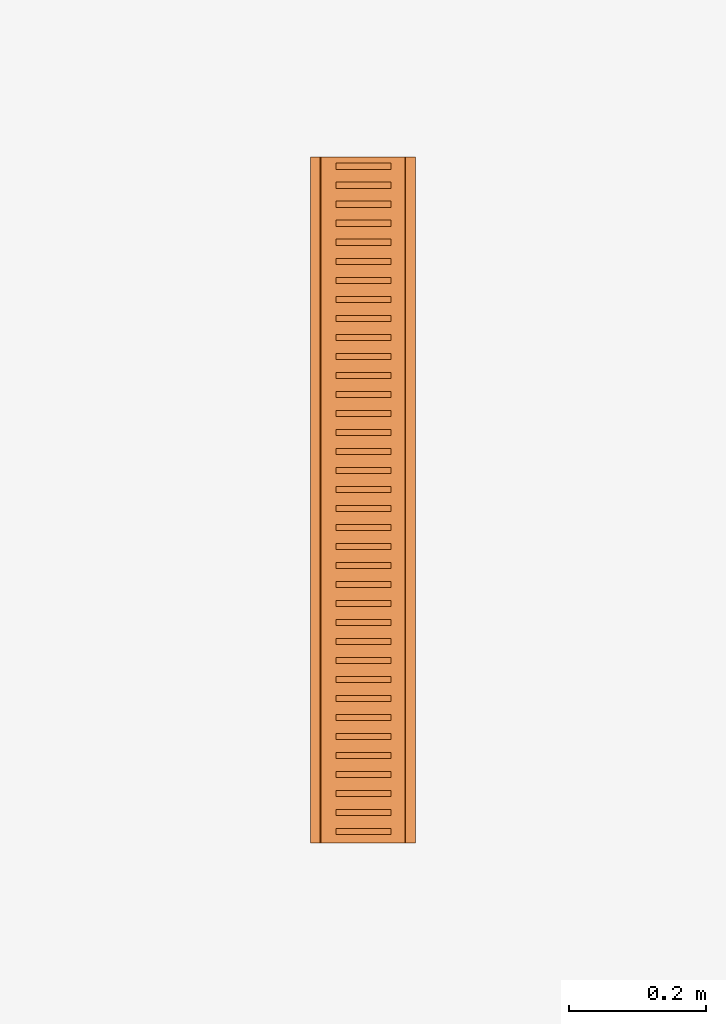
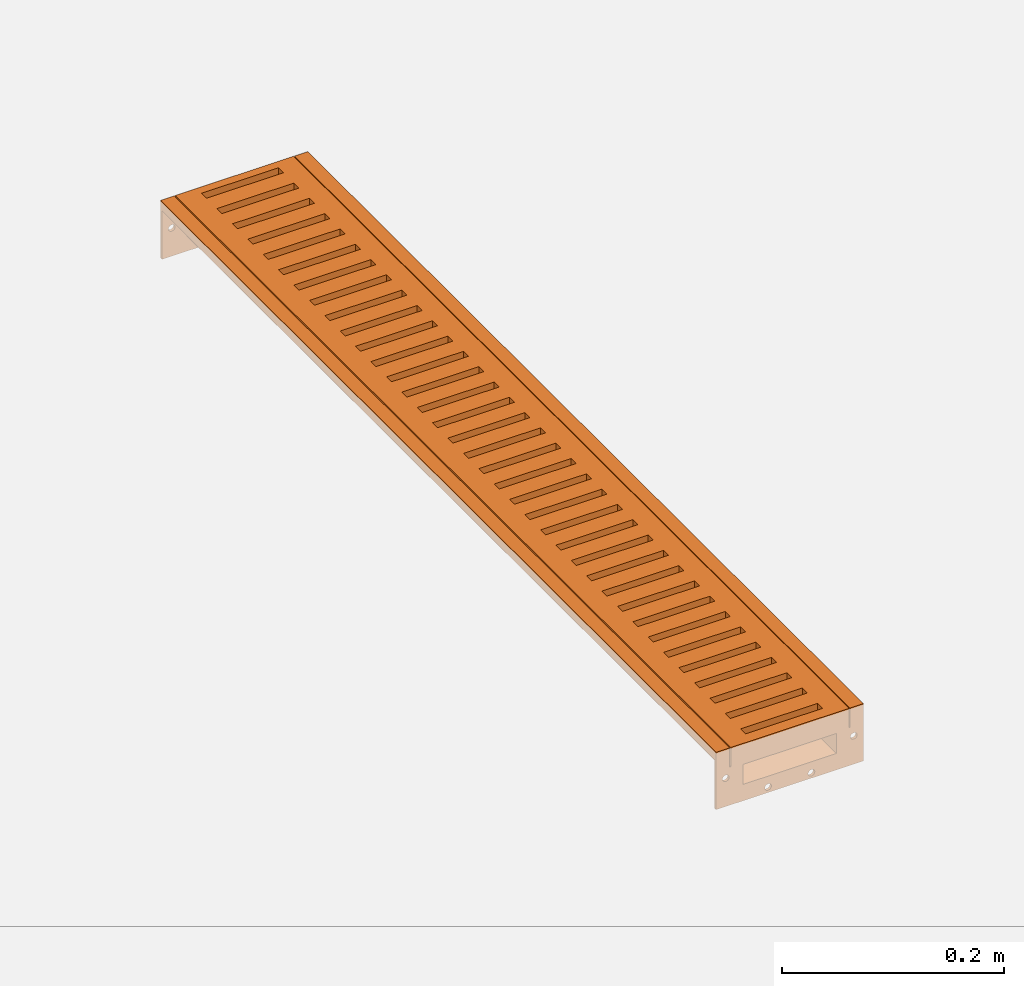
# One storey, part 2 of 2: 1 proxy.
"""IFC2X3 building model written with IfcOpenShell, lengths in millimetres."""

import ifcopenshell
import ifcopenshell.guid

model = None  # the IFC model being written
_history = None  # IfcOwnerHistory: only IFC2X3 demands one
_inside = {}  # id of a spatial element -> (the spatial element, [elements in it])
_under = {}  # id of a project, library or spatial element -> (it, [spatial elements below it])
_declared = {}  # id of a project -> (the project, [libraries it declares])
_typed = {}  # id of a type object -> (the type object, [elements of that type])
_made_of = {}  # id of a material, layer set ... -> (it, [elements and type objects made of it])


def new_model(schema):
    """Start an empty IFC model of exactly this schema.

    Asked for "IFC4X3", IfcOpenShell would pick the latest addendum, in which some entities
    have other attributes; the version numbers below select the first issue.
    IFC2X3 requires an IfcOwnerHistory on every rooted entity: one is made here for all.
    """
    global model, _history
    if schema == "IFC4X3":
        model = ifcopenshell.file(schema_version=(4, 3, 0, 0))
    else:
        model = ifcopenshell.file(schema=schema)
    _inside.clear()
    _under.clear()
    _declared.clear()
    _typed.clear()
    _made_of.clear()
    _history = None
    if model.schema == "IFC2X3":
        org = make("IfcOrganization", Name="unknown")
        user = make(
            "IfcPersonAndOrganization",
            ThePerson=make("IfcPerson", FamilyName="unknown"),
            TheOrganization=org,
        )
        app = make(
            "IfcApplication",
            ApplicationDeveloper=org,
            Version="unknown",
            ApplicationFullName="unknown",
            ApplicationIdentifier="unknown",
        )
        _history = make(
            "IfcOwnerHistory",
            OwningUser=user,
            OwningApplication=app,
            ChangeAction="ADDED",
            CreationDate=0,
        )
    return model


def make(cls, **values):
    """One entity of the class cls with the attributes given. An attribute that is None is left unset."""
    return model.create_entity(
        cls, **{name: value for name, value in values.items() if value is not None}
    )


def entity(cls, *values):
    """Any entity or typed value of the class cls, its attributes in the order of the schema. None: left unset."""
    e = model.create_entity(cls)
    for i, value in enumerate(values):
        if value is not None:
            e[i] = value
    return e


def rooted(cls, **values):
    """An entity with a GlobalId (a new one), such as an element, a storey or a relation."""
    return make(cls, GlobalId=ifcopenshell.guid.new(), OwnerHistory=_history, **values)


def si_unit(unit_type, name, prefix=None):
    """IfcSIUnit, for example si_unit("LENGTHUNIT", "METRE", prefix="MILLI")."""
    return make("IfcSIUnit", UnitType=unit_type, Prefix=prefix, Name=name)


def converted_unit(unit_type, name, factor, base, dimensions=None, offset=None):
    """IfcConversionBasedUnit, such as the inch: factor (a typed value) times the base unit."""
    return make(
        "IfcConversionBasedUnit"
        if offset is None
        else "IfcConversionBasedUnitWithOffset",
        ConversionOffset=offset,
        Dimensions=None
        if dimensions is None
        else entity("IfcDimensionalExponents", *dimensions),
        UnitType=unit_type,
        Name=name,
        ConversionFactor=make(
            "IfcMeasureWithUnit", ValueComponent=factor, UnitComponent=base
        ),
    )


def assignment(units):
    """IfcUnitAssignment: the units of a project."""
    return None if units is None else make("IfcUnitAssignment", Units=units)


def point(xyz):
    """IfcCartesianPoint."""
    return None if xyz is None else make("IfcCartesianPoint", Coordinates=xyz)


def direction(xyz):
    """IfcDirection."""
    return None if xyz is None else make("IfcDirection", DirectionRatios=xyz)


def frame(location, z_axis=None, x_axis=None):
    """IfcAxis2Placement3D, a coordinate frame: its origin and axes. An axis left out is left unset."""
    return make(
        "IfcAxis2Placement3D",
        Location=point(location),
        Axis=direction(z_axis),
        RefDirection=direction(x_axis),
    )


def frame_2d(location, x_axis=None):
    """IfcAxis2Placement2D, a coordinate frame in the plane: its origin and x axis."""
    return make(
        "IfcAxis2Placement2D", Location=point(location), RefDirection=direction(x_axis)
    )


def origin():
    """The frame at (0, 0, 0) with its axes left unset."""
    return frame((0.0, 0.0, 0.0))


def place(relative_to, where):
    """IfcLocalPlacement: puts the frame where relative to a parent placement (None: the world)."""
    return make(
        "IfcLocalPlacement", PlacementRelTo=relative_to, RelativePlacement=where
    )


def context(
    kind, dimensions, precision=None, world=None, true_north=None, identifier=None
):
    """IfcGeometricRepresentationContext, for example the 3D "Model" context."""
    return make(
        "IfcGeometricRepresentationContext",
        ContextIdentifier=identifier,
        ContextType=kind,
        CoordinateSpaceDimension=dimensions,
        Precision=precision,
        WorldCoordinateSystem=world,
        TrueNorth=true_north,
    )


def subcontext(parent, identifier, kind, view, scale=None):
    """IfcGeometricRepresentationSubContext, for example "Body" below "Model"."""
    return make(
        "IfcGeometricRepresentationSubContext",
        ContextIdentifier=identifier,
        ContextType=kind,
        ParentContext=parent,
        TargetScale=scale,
        TargetView=view,
    )


def project(units=None, contexts=None):
    """IfcProject with its units and contexts."""
    return rooted(
        "IfcProject",
        Name="project",
        RepresentationContexts=contexts,
        UnitsInContext=assignment(units),
    )


def spatial(cls, under=None, at=None, **own):
    """A site, building, storey or space (cls), placed at a placement, below another one or the project."""
    s = rooted(cls, ObjectPlacement=at, **own)
    if under is not None:
        _under.setdefault(under.id(), (under, []))[1].append(s)
    return s


def polyline(points):
    """IfcPolyline through the points."""
    return make("IfcPolyline", Points=[point(p) for p in points])


def circle_curve(where, radius):
    """IfcCircle in the frame where."""
    return make("IfcCircle", Position=where, Radius=radius)


def parameter(value):
    """IfcParameterValue: where a trimmed curve begins or ends, as a parameter of its basis curve."""
    return model.create_entity("IfcParameterValue", value)


def trimmed(basis, trim1, trim2, sense, master):
    """IfcTrimmedCurve: the piece of a basis curve between two trims."""
    return make(
        "IfcTrimmedCurve",
        BasisCurve=basis,
        Trim1=trim1,
        Trim2=trim2,
        SenseAgreement=sense,
        MasterRepresentation=master,
    )


def segment(curve, same_sense, transition):
    """IfcCompositeCurveSegment."""
    return make(
        "IfcCompositeCurveSegment",
        Transition=transition,
        SameSense=same_sense,
        ParentCurve=curve,
    )


def composite_curve(segments, self_intersect=None):
    """IfcCompositeCurve: segments joined end to end."""
    return make("IfcCompositeCurve", Segments=segments, SelfIntersect=self_intersect)


def outline(outer, holes=None, kind="AREA"):
    """IfcArbitraryClosedProfileDef: a profile drawn as a closed curve; with holes, ...WithVoids."""
    if holes is None:
        return make("IfcArbitraryClosedProfileDef", ProfileType=kind, OuterCurve=outer)
    return make(
        "IfcArbitraryProfileDefWithVoids",
        ProfileType=kind,
        OuterCurve=outer,
        InnerCurves=holes,
    )


def extrude(swept, where, along, depth):
    """IfcExtrudedAreaSolid: the profile swept, set in the frame where, extruded along a direction by depth."""
    return make(
        "IfcExtrudedAreaSolid",
        SweptArea=swept,
        Position=where,
        ExtrudedDirection=direction(along),
        Depth=depth,
    )


def shape(context_of_items, identifier, shape_type, items):
    """IfcShapeRepresentation: the items that make up one representation, for example the "Body"."""
    return make(
        "IfcShapeRepresentation",
        ContextOfItems=context_of_items,
        RepresentationIdentifier=identifier,
        RepresentationType=shape_type,
        Items=items,
    )


def source(mapping_origin, context_of_items, identifier, shape_type, items):
    """IfcRepresentationMap: a shape defined once, which mapped items show again and again."""
    return make(
        "IfcRepresentationMap",
        MappingOrigin=mapping_origin,
        MappedRepresentation=shape(context_of_items, identifier, shape_type, items),
    )


def transform(
    local_origin,
    x_axis=None,
    y_axis=None,
    z_axis=None,
    scale=None,
    scale2=None,
    scale3=None,
    uniform=True,
):
    """IfcCartesianTransformationOperator3D, or its non-uniform kind. x_axis, y_axis, z_axis: its Axis1, 2, 3."""
    if uniform:
        return make(
            "IfcCartesianTransformationOperator3D",
            Axis1=direction(x_axis),
            Axis2=direction(y_axis),
            LocalOrigin=point(local_origin),
            Scale=scale,
            Axis3=direction(z_axis),
        )
    return make(
        "IfcCartesianTransformationOperator3DnonUniform",
        Axis1=direction(x_axis),
        Axis2=direction(y_axis),
        LocalOrigin=point(local_origin),
        Scale=scale,
        Axis3=direction(z_axis),
        Scale2=scale2,
        Scale3=scale3,
    )


def mapped(mapping_source, mapping_target):
    """IfcMappedItem: shows the shape of a source again, moved by a transform."""
    return make(
        "IfcMappedItem", MappingSource=mapping_source, MappingTarget=mapping_target
    )


def material(Name=None, Category=None):
    """IfcMaterial."""
    return make("IfcMaterial", Name=Name, Category=Category)


def made_of(thing, what):
    """Note that an element or type object is made of a material, layer set ...; save() writes the relation."""
    if what is not None:
        _made_of.setdefault(what.id(), (what, []))[1].append(thing)
    return thing


def element(
    cls,
    number,
    at=None,
    inside=None,
    cuts=None,
    type_object=None,
    material=None,
    context=None,
    identifier="Body",
    shape_type=None,
    held_by="IfcProductDefinitionShape",
    body=None,
    shapes=None,
    **own,
):
    """One element of the class cls, such as IfcWall. Its Tag is "e" and its number.

    at: its placement. inside: the storey or other place that contains it. cuts: it is an
    opening in that element (IfcRelVoidsElement). A single representation is given by context,
    identifier, shape_type and body (its items); several are given by shapes. held_by: the class
    of the entity that holds the representations. save() writes the other relations.
    """
    e = rooted(cls, Tag="e%d" % number, ObjectPlacement=at, **own)
    if body is not None:
        shapes = [shape(context, identifier, shape_type, body)]
    if shapes is not None:
        e.Representation = make(held_by, Representations=shapes)
    if inside is not None:
        _inside.setdefault(inside.id(), (inside, []))[1].append(e)
    if cuts is not None:
        rooted(
            "IfcRelVoidsElement", RelatingBuildingElement=cuts, RelatedOpeningElement=e
        )
    if type_object is not None:
        _typed.setdefault(type_object.id(), (type_object, []))[1].append(e)
    return made_of(e, material)


def aggregate(whole, parts):
    """IfcRelAggregates: a whole, such as a stair, and the parts it consists of."""
    return rooted("IfcRelAggregates", RelatingObject=whole, RelatedObjects=parts)


def save(model, path):
    """Write the relations noted so far, then the file.

    IfcRelAggregates (storeys below a building ...), IfcRelContainedInSpatialStructure (elements
    in a storey), IfcRelDefinesByType, IfcRelAssociatesMaterial and IfcRelDeclares: one each for
    every whole, place, type object, material and project.
    """
    for whole, parts in _under.values():
        aggregate(whole, parts)
    for where, things in _inside.values():
        rooted(
            "IfcRelContainedInSpatialStructure",
            RelatedElements=things,
            RelatingStructure=where,
        )
    for kind, things in _typed.values():
        rooted("IfcRelDefinesByType", RelatedObjects=things, RelatingType=kind)
    for what, things in _made_of.values():
        rooted("IfcRelAssociatesMaterial", RelatedObjects=things, RelatingMaterial=what)
    for by, libraries in _declared.values():
        rooted("IfcRelDeclares", RelatingContext=by, RelatedDefinitions=libraries)
    model.write(path)


model = new_model("IFC2X3")

# Units and contexts
model_context = context("Model", 3, precision=1e-06, world=origin(), true_north=direction((2.0, 6.12303176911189e-17, 1.0)))
context_of_model = context(None, 3, precision=1e-06, world=origin(), true_north=direction((2.0, 6.12303176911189e-17, 1.0)))
body_context = subcontext(model_context, "Body", "Model", "MODEL_VIEW")
ifc_project = project(units=[si_unit("LENGTHUNIT", "METRE", prefix="MILLI"), si_unit("AREAUNIT", "SQUARE_METRE", prefix="MILLI"), si_unit("VOLUMEUNIT", "CUBIC_METRE", prefix="MILLI"), converted_unit("PLANEANGLEUNIT", "DEGREE", entity("IfcRatioMeasure", 0.0174532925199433), si_unit("PLANEANGLEUNIT", "RADIAN"), dimensions=[0, 0, 0, 0, 0, 0, 0]), si_unit("TIMEUNIT", "SECOND")], contexts=[model_context, context_of_model])

# Site, building, storey
site_placement = place(None, origin())
site = spatial("IfcSite", under=ifc_project, at=site_placement, Name="Default", CompositionType="ELEMENT")
building_placement = place(site_placement, origin())
building = spatial("IfcBuilding", under=site, at=building_placement, CompositionType="ELEMENT")
storey_placement = place(building_placement, origin())
storey = spatial("IfcBuildingStorey", under=building, at=storey_placement, Name="Level 1", CompositionType="ELEMENT", Elevation=0.0)

# Proxy
ifc_material = material(Name="Steel, Galvanized")
shared_shape = source(origin(), body_context, "Body", "SweptSolid", [
    extrude(outline(polyline([(-500.0, -61.4999999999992), (500.0, -61.4999999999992), (500.0, 61.4999999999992), (-500.0, 61.4999999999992), (-500.0, -61.4999999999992)]), holes=[polyline([(-479.049999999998, 39.1969999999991), (-479.049999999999, -40.8030000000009), (-488.049999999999, -40.8030000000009), (-488.049999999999, 39.1969999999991), (-479.049999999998, 39.1969999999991)]), polyline([(-451.329999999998, 39.196999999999), (-451.329999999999, -40.803000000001), (-460.329999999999, -40.803000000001), (-460.329999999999, 39.196999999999), (-451.329999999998, 39.196999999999)]), polyline([(-432.609999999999, -40.803000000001), (-432.609999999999, 39.196999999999), (-423.609999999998, 39.196999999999), (-423.609999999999, -40.803000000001), (-432.609999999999, -40.803000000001)]), polyline([(-395.889999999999, -40.8030000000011), (-404.889999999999, -40.803000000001), (-404.889999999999, 39.1969999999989), (-395.889999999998, 39.1969999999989), (-395.889999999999, -40.8030000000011)]), polyline([(-377.169999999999, -40.8030000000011), (-377.169999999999, 39.1969999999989), (-368.169999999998, 39.1969999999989), (-368.169999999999, -40.8030000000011), (-377.169999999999, -40.8030000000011)]), polyline([(-349.449999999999, -40.8030000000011), (-349.449999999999, 39.1969999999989), (-340.449999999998, 39.1969999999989), (-340.449999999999, -40.8030000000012), (-349.449999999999, -40.8030000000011)]), polyline([(-321.729999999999, -40.8030000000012), (-321.729999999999, 39.1969999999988), (-312.729999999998, 39.1969999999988), (-312.729999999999, -40.8030000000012), (-321.729999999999, -40.8030000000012)]), polyline([(-294.009999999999, -40.8030000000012), (-294.009999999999, 39.1969999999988), (-285.009999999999, 39.1969999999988), (-285.009999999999, -40.8030000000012), (-294.009999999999, -40.8030000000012)]), polyline([(-266.289999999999, -40.8030000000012), (-266.289999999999, 39.1969999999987), (-257.289999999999, 39.1969999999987), (-257.289999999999, -40.8030000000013), (-266.289999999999, -40.8030000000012)]), polyline([(-238.569999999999, -40.8030000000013), (-238.569999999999, 39.1969999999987), (-229.569999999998, 39.1969999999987), (-229.569999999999, -40.8030000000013), (-238.569999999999, -40.8030000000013)]), polyline([(-210.849999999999, -40.8030000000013), (-210.849999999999, 39.1969999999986), (-201.849999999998, 39.1969999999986), (-201.849999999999, -40.8030000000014), (-210.849999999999, -40.8030000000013)]), polyline([(-183.129999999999, -40.8030000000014), (-183.129999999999, 39.1969999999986), (-174.129999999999, 39.1969999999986), (-174.129999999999, -40.8030000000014), (-183.129999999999, -40.8030000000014)]), polyline([(-155.409999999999, -40.8030000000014), (-155.409999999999, 39.1969999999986), (-146.409999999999, 39.1969999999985), (-146.409999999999, -40.8030000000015), (-155.409999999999, -40.8030000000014)]), polyline([(-127.689999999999, -40.8030000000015), (-127.689999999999, 39.1969999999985), (-118.689999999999, 39.1969999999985), (-118.689999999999, -40.8030000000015), (-127.689999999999, -40.8030000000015)]), polyline([(-99.9699999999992, -40.8030000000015), (-99.9699999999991, 39.1969999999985), (-90.9699999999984, 39.1969999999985), (-90.9699999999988, -40.8030000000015), (-99.9699999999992, -40.8030000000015)]), polyline([(-72.2499999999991, -40.8030000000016), (-72.2499999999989, 39.1969999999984), (-63.2499999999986, 39.1969999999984), (-63.249999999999, -40.8030000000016), (-72.2499999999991, -40.8030000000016)]), polyline([(-44.5299999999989, -40.8030000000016), (-44.5299999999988, 39.1969999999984), (-35.5299999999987, 39.1969999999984), (-35.5299999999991, -40.8030000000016), (-44.5299999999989, -40.8030000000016)]), polyline([(-16.8099999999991, -40.8030000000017), (-16.8099999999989, 39.1969999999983), (-7.80999999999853, 39.1969999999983), (-7.80999999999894, -40.8030000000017), (-16.8099999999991, -40.8030000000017)]), polyline([(10.9100000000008, -40.8030000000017), (10.9100000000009, 39.1969999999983), (19.9100000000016, 39.1969999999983), (19.9100000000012, -40.8030000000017), (10.9100000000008, -40.8030000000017)]), polyline([(38.6300000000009, -40.8030000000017), (38.6300000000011, 39.1969999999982), (47.6300000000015, 39.1969999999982), (47.6300000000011, -40.8030000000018), (38.6300000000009, -40.8030000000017)]), polyline([(66.3500000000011, -40.8030000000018), (66.3500000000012, 39.1969999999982), (75.3500000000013, 39.1969999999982), (75.3500000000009, -40.8030000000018), (66.3500000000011, -40.8030000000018)]), polyline([(94.070000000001, -40.8030000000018), (94.0700000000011, 39.1969999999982), (103.070000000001, 39.1969999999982), (103.070000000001, -40.8030000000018), (94.070000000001, -40.8030000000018)]), polyline([(130.790000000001, -40.8030000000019), (121.790000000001, -40.8030000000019), (121.790000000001, 39.1969999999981), (130.790000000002, 39.1969999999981), (130.790000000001, -40.8030000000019)]), polyline([(149.510000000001, -40.8030000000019), (149.510000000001, 39.1969999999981), (158.510000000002, 39.1969999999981), (158.510000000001, -40.8030000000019), (149.510000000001, -40.8030000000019)]), polyline([(177.230000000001, -40.803000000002), (177.230000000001, 39.196999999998), (186.230000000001, 39.196999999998), (186.230000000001, -40.803000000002), (177.230000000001, -40.803000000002)]), polyline([(204.950000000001, -40.803000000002), (204.950000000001, 39.196999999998), (213.950000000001, 39.196999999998), (213.950000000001, -40.803000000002), (204.950000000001, -40.803000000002)]), polyline([(232.670000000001, -40.803000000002), (232.670000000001, 39.196999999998), (241.670000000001, 39.1969999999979), (241.670000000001, -40.8030000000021), (232.670000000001, -40.803000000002)]), polyline([(260.390000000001, -40.8030000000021), (260.390000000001, 39.1969999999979), (269.390000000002, 39.1969999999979), (269.390000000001, -40.8030000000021), (260.390000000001, -40.8030000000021)]), polyline([(288.110000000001, -40.8030000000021), (288.110000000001, 39.1969999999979), (297.110000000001, 39.1969999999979), (297.110000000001, -40.8030000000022), (288.110000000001, -40.8030000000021)]), polyline([(315.830000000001, -40.8030000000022), (315.830000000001, 39.1969999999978), (324.830000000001, 39.1969999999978), (324.830000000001, -40.8030000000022), (315.830000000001, -40.8030000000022)]), polyline([(343.550000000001, -40.8030000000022), (343.550000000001, 39.1969999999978), (352.550000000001, 39.1969999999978), (352.550000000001, -40.8030000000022), (343.550000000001, -40.8030000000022)]), polyline([(371.270000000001, -40.8030000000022), (371.270000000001, 39.1969999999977), (380.270000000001, 39.1969999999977), (380.270000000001, -40.8030000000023), (371.270000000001, -40.8030000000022)]), polyline([(398.990000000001, -40.8030000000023), (398.990000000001, 39.1969999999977), (407.990000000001, 39.1969999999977), (407.990000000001, -40.8030000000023), (398.990000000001, -40.8030000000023)]), polyline([(426.710000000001, -40.8030000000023), (426.710000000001, 39.1969999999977), (435.710000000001, 39.1969999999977), (435.710000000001, -40.8030000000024), (426.710000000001, -40.8030000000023)]), polyline([(454.430000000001, -40.8030000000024), (454.430000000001, 39.1969999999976), (463.430000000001, 39.1969999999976), (463.430000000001, -40.8030000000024), (454.430000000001, -40.8030000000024)]), polyline([(482.150000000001, -40.8030000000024), (482.150000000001, 39.1969999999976), (491.150000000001, 39.1969999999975), (491.150000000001, -40.8030000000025), (482.150000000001, -40.8030000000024)])]), frame((-0.803000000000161, 500.0, -23.0), z_axis=(0.0, 0.0, 1.0), x_axis=(0.0, 1.0, 0.0)), (0.0, 0.0, 1.0), 23.0),
    extrude(outline(polyline([(-76.479369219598, -27.9230769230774), (-62.5037510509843, -27.9230769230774), (-62.5037510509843, -6.92307692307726), (-48.5037510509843, -6.92307692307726), (-48.5037510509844, 17.076923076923), (48.4962489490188, 17.076923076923), (48.4962489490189, -6.92307692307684), (62.4962489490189, -6.92307692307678), (62.496248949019, -27.923076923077), (76.4962489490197, -27.923076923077), (76.4962489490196, 35.0769230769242), (-0.00375105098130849, 35.0769230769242), (-76.4793692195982, 35.0769230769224), (-76.479369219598, -27.9230769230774)]), holes=[composite_curve([segment(trimmed(circle_curve(frame_2d((66.4962489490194, 4.07692307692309), x_axis=(-1.0, 0.0)), 3.5), [parameter(180.000000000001)], [parameter(7.12444248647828e-13)], True, "PARAMETER"), False, "CONTINUOUS"), segment(trimmed(circle_curve(frame_2d((66.4962489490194, 4.07692307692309), x_axis=(-1.0, 0.0)), 3.5), [parameter(7.12444248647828e-13)], [parameter(180.0)], True, "PARAMETER"), False, "CONTINUOUS")], self_intersect=False), composite_curve([segment(trimmed(circle_curve(frame_2d((22.496248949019, 29.0769230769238), x_axis=(-1.0, 0.0)), 3.5), [parameter(180.0)], [parameter(7.12444248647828e-13)], True, "PARAMETER"), False, "CONTINUOUS"), segment(trimmed(circle_curve(frame_2d((22.496248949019, 29.0769230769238), x_axis=(-1.0, 0.0)), 3.5), [parameter(7.12444248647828e-13)], [parameter(180.0)], True, "PARAMETER"), False, "CONTINUOUS")], self_intersect=False), composite_curve([segment(trimmed(circle_curve(frame_2d((-22.5037510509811, 29.0769230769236), x_axis=(-1.0, 0.0)), 3.5), [parameter(4.07110999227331e-13)], [parameter(180.0)], True, "PARAMETER"), False, "CONTINUOUS"), segment(trimmed(circle_curve(frame_2d((-22.5037510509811, 29.0769230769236), x_axis=(-1.0, 0.0)), 3.5), [parameter(180.0)], [parameter(0.0)], True, "PARAMETER"), False, "CONTINUOUS")], self_intersect=False), composite_curve([segment(trimmed(circle_curve(frame_2d((-66.5037510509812, 4.07692307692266), x_axis=(-1.0, 0.0)), 3.5), [parameter(3.56222124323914e-13)], [parameter(180.0)], True, "PARAMETER"), False, "CONTINUOUS"), segment(trimmed(circle_curve(frame_2d((-66.5037510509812, 4.07692307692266), x_axis=(-1.0, 0.0)), 3.5), [parameter(180.0)], [parameter(0.0)], True, "PARAMETER"), False, "CONTINUOUS")], self_intersect=False)]), frame((-1.05616774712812, 996.955287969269, -27.9230769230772), z_axis=(0.0, 1.0, 0.0), x_axis=(1.0, 0.0, 0.0)), (0.0, 0.0, 1.0), 2.95528796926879),
    extrude(outline(polyline([(-76.4999298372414, -27.9230769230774), (-62.5000127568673, -27.9230769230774), (-62.5000127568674, -6.92307692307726), (-48.5000127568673, -6.92307692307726), (-48.5000127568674, 17.076923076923), (48.4999872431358, 17.076923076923), (48.4999872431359, -6.92307692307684), (62.4999872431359, -6.92307692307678), (62.499987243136, -27.923076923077), (76.4999872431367, -27.923076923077), (76.4999872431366, 35.0769230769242), (-1.27568643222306e-05, 35.0769230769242), (-76.4999298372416, 35.0769230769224), (-76.4999298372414, -27.9230769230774)]), holes=[composite_curve([segment(trimmed(circle_curve(frame_2d((66.4999872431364, 4.07692307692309), x_axis=(-1.0, 0.0)), 3.5), [parameter(180.000000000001)], [parameter(7.12444248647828e-13)], True, "PARAMETER"), False, "CONTINUOUS"), segment(trimmed(circle_curve(frame_2d((66.4999872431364, 4.07692307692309), x_axis=(-1.0, 0.0)), 3.5), [parameter(7.12444248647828e-13)], [parameter(180.0)], True, "PARAMETER"), False, "CONTINUOUS")], self_intersect=False), composite_curve([segment(trimmed(circle_curve(frame_2d((22.4999872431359, 29.0769230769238), x_axis=(-1.0, 0.0)), 3.5), [parameter(180.0)], [parameter(7.12444248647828e-13)], True, "PARAMETER"), False, "CONTINUOUS"), segment(trimmed(circle_curve(frame_2d((22.4999872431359, 29.0769230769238), x_axis=(-1.0, 0.0)), 3.5), [parameter(7.12444248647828e-13)], [parameter(180.0)], True, "PARAMETER"), False, "CONTINUOUS")], self_intersect=False), composite_curve([segment(trimmed(circle_curve(frame_2d((-22.5000127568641, 29.0769230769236), x_axis=(-1.0, 0.0)), 3.5), [parameter(4.07110999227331e-13)], [parameter(180.0)], True, "PARAMETER"), False, "CONTINUOUS"), segment(trimmed(circle_curve(frame_2d((-22.5000127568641, 29.0769230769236), x_axis=(-1.0, 0.0)), 3.5), [parameter(180.0)], [parameter(4.07110999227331e-13)], True, "PARAMETER"), False, "CONTINUOUS")], self_intersect=False), composite_curve([segment(trimmed(circle_curve(frame_2d((-66.5000127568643, 4.07692307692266), x_axis=(-1.0, 0.0)), 3.5), [parameter(3.56222124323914e-13)], [parameter(180.0)], True, "PARAMETER"), False, "CONTINUOUS"), segment(trimmed(circle_curve(frame_2d((-66.5000127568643, 4.07692307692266), x_axis=(-1.0, 0.0)), 3.5), [parameter(180.0)], [parameter(3.56222124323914e-13)], True, "PARAMETER"), False, "CONTINUOUS")], self_intersect=False)]), frame((-1.0599060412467, 0.0, -27.9230769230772), z_axis=(0.0, 1.0, 0.0), x_axis=(1.0, 0.0, 0.0)), (0.0, 0.0, 1.0), 2.95528796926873),
    extrude(outline(polyline([(-19.4461905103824, -62.4999585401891), (-19.4461905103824, -76.4999585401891), (-9.4461905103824, -76.4999585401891), (-9.4461905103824, -74.4999585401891), (-17.4822085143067, -74.4999585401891), (-17.4822085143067, -64.499958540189), (3.50614790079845, -64.499958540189), (3.50614790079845, -50.499958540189), (27.3476239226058, -50.499958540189), (27.3476239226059, 0.0), (27.3476239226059, 50.4999585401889), (3.50614790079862, 50.499958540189), (3.50614790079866, 64.499958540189), (-17.4822085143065, 64.4999585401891), (-17.4822085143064, 74.4999585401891), (-9.44619051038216, 74.4999585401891), (-9.44619051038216, 76.4999585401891), (-19.4461905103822, 76.4999585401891), (-19.4461905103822, 62.4999585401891), (1.5538094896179, 62.4999585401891), (1.55380948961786, 48.499958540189), (3.27711417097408, 48.499958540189), (25.5538094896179, 48.4999585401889), (25.5538094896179, 0.0), (25.5538094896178, -48.499958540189), (3.27711417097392, -48.499958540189), (1.5538094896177, -48.499958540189), (1.5538094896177, -62.4999585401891), (-19.4461905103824, -62.4999585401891)])), frame((-1.03557842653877, 2.95528796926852, -19.4461905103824), z_axis=(0.0, -1.0, 0.0), x_axis=(0.0, 0.0, -1.0)), (0.0, 0.0, -1.0), 994.0),
])
proxy_placement = place(storey_placement, frame((-93.35049656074, -432.192263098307, 0.0)))
element("IfcBuildingElementProxy", 1, at=proxy_placement, inside=storey, material=ifc_material, Name="ACO BD Deckline 125 Straight Channel:105255 - Level Invert channel-1000mm LG:105255 - Level Invert channel-1000mm LG", ObjectType="105255 - Level Invert channel-1000mm LG", CompositionType="ELEMENT", context=body_context, shape_type="MappedRepresentation", body=[
    mapped(shared_shape, transform((0.0, 0.0, 0.0), scale=1.0)),
])

save(model, "model.ifc")
